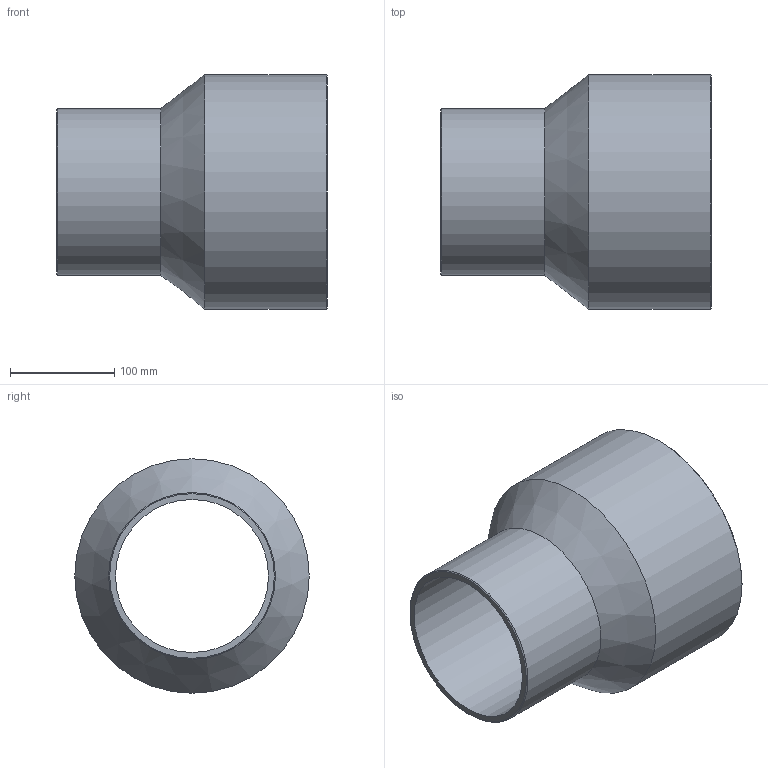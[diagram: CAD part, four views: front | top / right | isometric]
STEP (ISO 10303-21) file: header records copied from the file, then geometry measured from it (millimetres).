
FILE_DESCRIPTION(/* description */ ('Unknown'),/* implementation_level */ '2;1');
FILE_NAME(/* name */ 'RP225160B',/* time_stamp */ '2021-09-17T11:46:38+02:00',/* author */ ('Unknown'),/* organization */ ('Unknown'),/* preprocessor_version */ 'ST-DEVELOPER v16.7',/* originating_system */ 'Solid Edge',/* authorisation */ 'Unknown');
FILE_SCHEMA (('AUTOMOTIVE_DESIGN {1 0 10303 214 3 1 1}'));
Length unit declared in the file: millimetre
Products named in the file (1): RP225160B
Bounding box: 260 x 225 x 225 mm (x, y, z)
Volume: 1737011.7 mm3; surface area: 322530 mm2
Topology: 1 solids, 1 shells, 10 faces, 19 edges, 11 vertices
Faces by surface type: cylinder 4, cone 4, plane 2
Full cylindrical faces by diameter (mm): 146.8 x1, 160 x1, 198.2 x1, 225 x1
Entity records: 238 total; most frequent: DIRECTION 42, CARTESIAN_POINT 31, AXIS2_PLACEMENT_3D 21, ORIENTED_EDGE 20, EDGE_LOOP 20, FACE_BOUND 20, EDGE_CURVE 10, VERTEX_POINT 10
